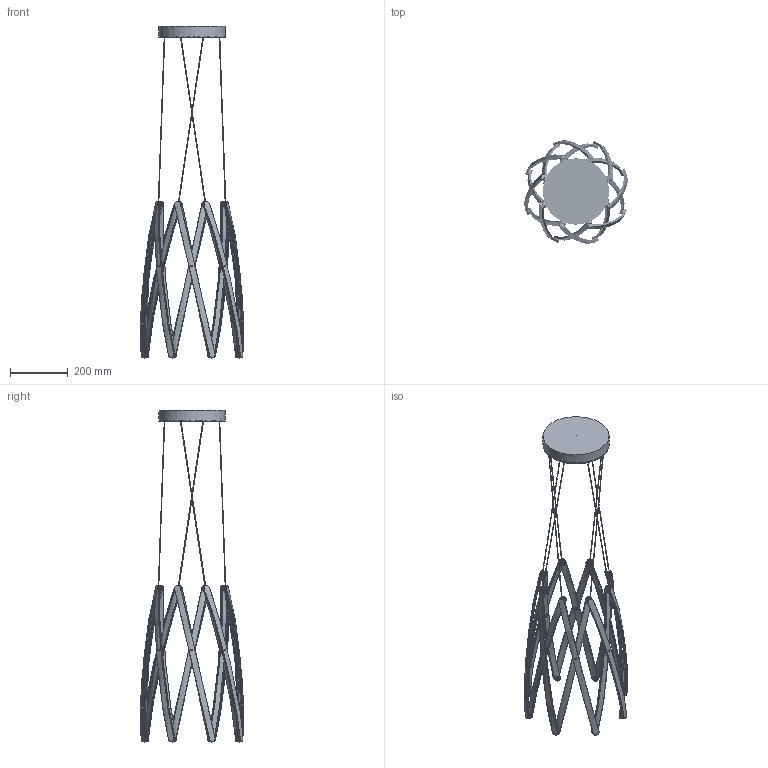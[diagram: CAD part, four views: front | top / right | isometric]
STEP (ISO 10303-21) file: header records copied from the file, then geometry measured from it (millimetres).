
FILE_DESCRIPTION(/* description */ (''),/* implementation_level */ '2;1');
FILE_NAME(/* name */ 'STELLA16 FLAT POS 1',/* time_stamp */ '2024-05-06T13:24:31-07:00',/* author */ (''),/* organization */ (''),/* preprocessor_version */ 'ST-DEVELOPER v18',/* originating_system */ '',/* authorisation */ '');
FILE_SCHEMA (('AUTOMOTIVE_DESIGN { 1 0 10303 214 3 1 1 }'));
Bounding box: 358.96 x 358.96 x 1148.03 mm (x, y, z)
Surface area: 675156.9 mm2 (no closed solid volume)
Topology: 0 solids, 2008 shells, 2008 faces, 9652 edges, 9509 vertices
Faces by surface type: bspline 2008
Entity records: 155975 total; most frequent: CARTESIAN_POINT 108247, ORIENTED_EDGE 9713, EDGE_CURVE 9610, VERTEX_POINT 9509, B_SPLINE_CURVE_WITH_KNOTS 4634, EDGE_LOOP 2176, STYLED_ITEM 2008, FACE_OUTER_BOUND 2008
